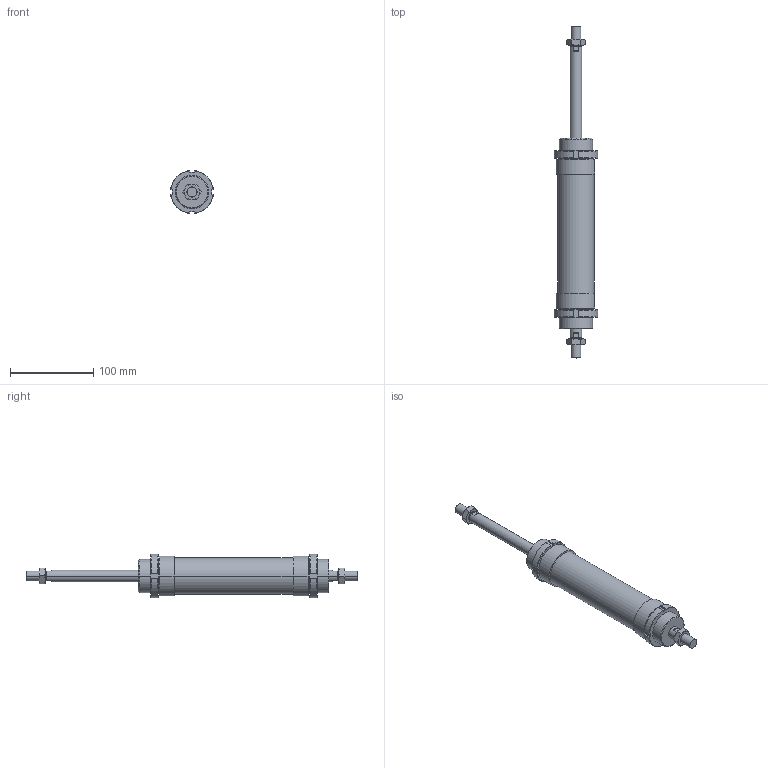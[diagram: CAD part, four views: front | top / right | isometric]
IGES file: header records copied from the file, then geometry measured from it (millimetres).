
Global section: file name: No Iges File Name specified; native system: AutoDesk Inventor R6.0; preprocessor: AutoDesk Inventor Iges Exporter R6.0; author: No Author specified; organization: No Organization specified; date: 20030403.072820; units: millimetre
Bounding box: 51.76 x 399 x 51.76 mm (x, y, z)
Volume: 385001.9 mm3; surface area: 74535.2 mm2
Topology: 6 solids, 6 shells, 182 faces, 424 edges, 264 vertices
Faces by surface type: plane 66, cone 52, bspline 30, cylinder 28, revolution 6
